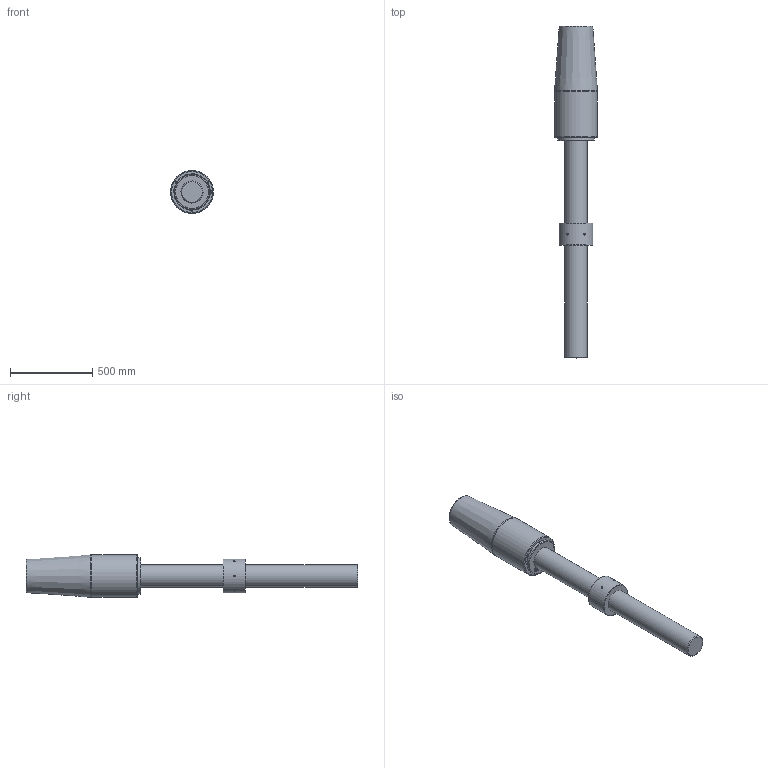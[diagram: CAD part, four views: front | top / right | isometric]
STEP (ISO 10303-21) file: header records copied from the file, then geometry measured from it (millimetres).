
FILE_DESCRIPTION(/* description */ (''),/* implementation_level */ '2;1');
FILE_NAME(/* name */ 'D:\Clienti\Redaelli (inventor)\CYB\STEP\Arrangement\CYB088 52 061 0.stp',/* time_stamp */ '2021-05-08T14:50:35+02:00',/* author */ ('fabri'),/* organization */ (''),/* preprocessor_version */ 'ST-DEVELOPER v16.13',/* originating_system */ 'Autodesk Inventor 2018',/* authorisation */ '');
FILE_SCHEMA (('AUTOMOTIVE_DESIGN { 1 0 10303 214 3 1 1 }'));
Length unit declared in the file: millimetre
Products named in the file (5): CYB088 52 061 0; RNT052 41 051 0_ROD; RNT052 41 051 0_ROD_1; CCY021-51-061-0_BUSH; CCY021-51-061-0
Assembly tree (4 placements, depth 2):
  CYB088 52 061 0
    RNT052 41 051 0_ROD
    RNT052 41 051 0_ROD_1
    CCY021-51-061-0_BUSH
    CCY021-51-061-0
Bounding box: 260 x 2013 x 260 mm (x, y, z)
Volume: 58988829.8 mm3; surface area: 1690876.5 mm2
Topology: 4 solids, 4 shells, 751 faces, 1992 edges, 1323 vertices
Faces by surface type: bspline 436, plane 277, cylinder 18, cone 16, torus 4
Full cylindrical faces by diameter (mm): 10 x6, 10.106 x3, 128.505 x2, 135 x1, 136 x1, 183 x1, 195 x1, 205 x1, 220 x1, 260 x1
Entity records: 25528 total; most frequent: CARTESIAN_POINT 9909, ORIENTED_EDGE 3886, EDGE_CURVE 1943, DIRECTION 1751, VERTEX_POINT 1313, LINE 1017, VECTOR 1017, B_SPLINE_CURVE_WITH_KNOTS 882
